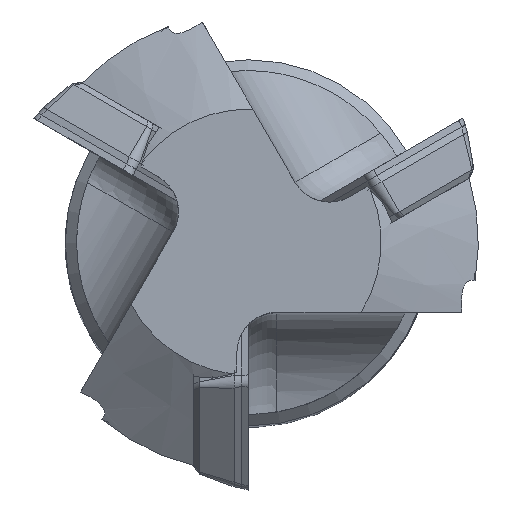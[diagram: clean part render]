
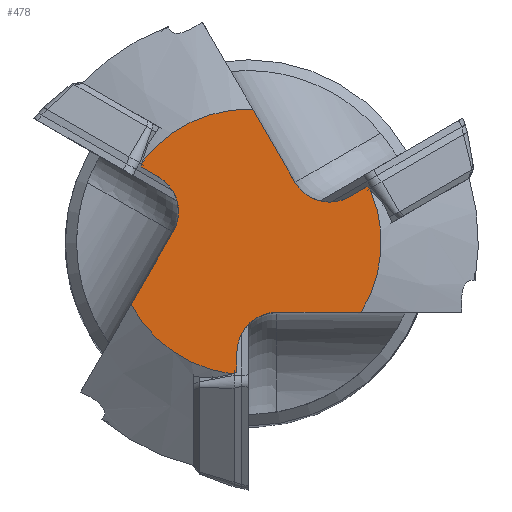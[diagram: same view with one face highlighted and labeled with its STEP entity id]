
A CAD part, top view. The second image highlights one B-rep face of the part: STEP entity #478.
In plain terms, the highlighted planar face has unit normal (0, 0, 1).
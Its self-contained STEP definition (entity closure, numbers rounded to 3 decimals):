
#252=FACE_OUTER_BOUND('',#813,.T.);
#478=ADVANCED_FACE('',(#252),#620,.F.);
#620=PLANE('',#2866);
#694=CIRCLE('',#2840,11.612);
#695=CIRCLE('',#2842,11.612);
#698=CIRCLE('',#2851,11.612);
#703=CIRCLE('',#2863,3.5);
#704=CIRCLE('',#2864,3.5);
#705=CIRCLE('',#2865,3.5);
#813=EDGE_LOOP('',(#1556,#1557,#1558,#1559,#1560,#1561,#1562,#1563,#1564,
#1565,#1566,#1567,#1568,#1569,#1570));
#988=LINE('',#3999,#1179);
#999=LINE('',#4201,#1190);
#1000=LINE('',#4202,#1191);
#1001=LINE('',#4204,#1192);
#1002=LINE('',#4208,#1193);
#1003=LINE('',#4209,#1194);
#1004=LINE('',#4211,#1195);
#1005=LINE('',#4214,#1196);
#1006=LINE('',#4216,#1197);
#1179=VECTOR('',#3109,1.);
#1190=VECTOR('',#3158,1.);
#1191=VECTOR('',#3159,1.);
#1192=VECTOR('',#3160,1.);
#1193=VECTOR('',#3163,1.);
#1194=VECTOR('',#3164,1.);
#1195=VECTOR('',#3165,1.);
#1196=VECTOR('',#3168,1.);
#1197=VECTOR('',#3169,1.);
#1556=ORIENTED_EDGE('',*,*,#2498,.T.);
#1557=ORIENTED_EDGE('',*,*,#2499,.T.);
#1558=ORIENTED_EDGE('',*,*,#2446,.F.);
#1559=ORIENTED_EDGE('',*,*,#2500,.T.);
#1560=ORIENTED_EDGE('',*,*,#2501,.T.);
#1561=ORIENTED_EDGE('',*,*,#2502,.T.);
#1562=ORIENTED_EDGE('',*,*,#2503,.T.);
#1563=ORIENTED_EDGE('',*,*,#2471,.F.);
#1564=ORIENTED_EDGE('',*,*,#2504,.T.);
#1565=ORIENTED_EDGE('',*,*,#2505,.T.);
#1566=ORIENTED_EDGE('',*,*,#2506,.T.);
#1567=ORIENTED_EDGE('',*,*,#2459,.T.);
#1568=ORIENTED_EDGE('',*,*,#2455,.F.);
#1569=ORIENTED_EDGE('',*,*,#2507,.T.);
#1570=ORIENTED_EDGE('',*,*,#2508,.T.);
#2174=VERTEX_POINT('',#3937);
#2175=VERTEX_POINT('',#3938);
#2181=VERTEX_POINT('',#3981);
#2182=VERTEX_POINT('',#3983);
#2184=VERTEX_POINT('',#4000);
#2195=VERTEX_POINT('',#4048);
#2196=VERTEX_POINT('',#4049);
#2218=VERTEX_POINT('',#4199);
#2219=VERTEX_POINT('',#4200);
#2220=VERTEX_POINT('',#4203);
#2221=VERTEX_POINT('',#4205);
#2222=VERTEX_POINT('',#4207);
#2223=VERTEX_POINT('',#4210);
#2224=VERTEX_POINT('',#4212);
#2225=VERTEX_POINT('',#4215);
#2446=EDGE_CURVE('',#2174,#2175,#694,.T.);
#2455=EDGE_CURVE('',#2181,#2182,#695,.T.);
#2459=EDGE_CURVE('',#2184,#2182,#988,.T.);
#2471=EDGE_CURVE('',#2195,#2196,#698,.T.);
#2498=EDGE_CURVE('',#2218,#2219,#703,.T.);
#2499=EDGE_CURVE('',#2219,#2175,#999,.T.);
#2500=EDGE_CURVE('',#2174,#2220,#1000,.T.);
#2501=EDGE_CURVE('',#2220,#2221,#1001,.T.);
#2502=EDGE_CURVE('',#2221,#2222,#704,.T.);
#2503=EDGE_CURVE('',#2222,#2196,#1002,.T.);
#2504=EDGE_CURVE('',#2195,#2223,#1003,.T.);
#2505=EDGE_CURVE('',#2223,#2224,#1004,.T.);
#2506=EDGE_CURVE('',#2224,#2184,#705,.T.);
#2507=EDGE_CURVE('',#2181,#2225,#1005,.T.);
#2508=EDGE_CURVE('',#2225,#2218,#1006,.T.);
#2840=AXIS2_PLACEMENT_3D('',#3936,#3099,#3100);
#2842=AXIS2_PLACEMENT_3D('',#3982,#3103,#3104);
#2851=AXIS2_PLACEMENT_3D('',#4047,#3124,#3125);
#2863=AXIS2_PLACEMENT_3D('',#4198,#3156,#3157);
#2864=AXIS2_PLACEMENT_3D('',#4206,#3161,#3162);
#2865=AXIS2_PLACEMENT_3D('',#4213,#3166,#3167);
#2866=AXIS2_PLACEMENT_3D('',#4217,#3170,#3171);
#3099=DIRECTION('',(0.,0.,-1.));
#3100=DIRECTION('',(1.,0.,0.));
#3103=DIRECTION('',(0.,0.,-1.));
#3104=DIRECTION('',(1.,0.,0.));
#3109=DIRECTION('',(1.,0.,0.));
#3124=DIRECTION('',(0.,0.,-1.));
#3125=DIRECTION('',(1.,0.,0.));
#3156=DIRECTION('',(0.,0.,-1.));
#3157=DIRECTION('',(1.,0.,0.));
#3158=DIRECTION('',(-0.5,0.866,0.));
#3159=DIRECTION('',(-0.183,-0.983,0.));
#3160=DIRECTION('',(0.866,-0.5,0.));
#3161=DIRECTION('',(0.,0.,-1.));
#3162=DIRECTION('',(1.,0.,0.));
#3163=DIRECTION('',(-0.5,-0.866,0.));
#3164=DIRECTION('',(0.943,0.333,0.));
#3165=DIRECTION('',(0.,1.,0.));
#3166=DIRECTION('',(0.,0.,-1.));
#3167=DIRECTION('',(1.,0.,0.));
#3168=DIRECTION('',(-0.76,0.65,0.));
#3169=DIRECTION('',(-0.866,-0.5,0.));
#3170=DIRECTION('',(0.,0.,-1.));
#3171=DIRECTION('',(1.,0.,0.));
#3936=CARTESIAN_POINT('',(0.,0.,-1.));
#3937=CARTESIAN_POINT('',(-9.28,6.98,-1.));
#3938=CARTESIAN_POINT('',(0.393,11.606,-1.));
#3981=CARTESIAN_POINT('',(10.685,4.546,-1.));
#3982=CARTESIAN_POINT('',(0.,0.,-1.));
#3983=CARTESIAN_POINT('',(9.854,-6.143,-1.));
#3999=CARTESIAN_POINT('',(0.,-6.143,-1.));
#4000=CARTESIAN_POINT('',(2.5,-6.143,-1.));
#4047=CARTESIAN_POINT('',(0.,0.,-1.));
#4048=CARTESIAN_POINT('',(-1.405,-11.527,-1.));
#4049=CARTESIAN_POINT('',(-10.247,-5.463,-1.));
#4198=CARTESIAN_POINT('',(7.101,6.986,-1.));
#4199=CARTESIAN_POINT('',(8.851,3.955,-1.));
#4200=CARTESIAN_POINT('',(4.07,5.236,-1.));
#4201=CARTESIAN_POINT('',(5.32,3.071,-1.));
#4202=CARTESIAN_POINT('',(-10.226,1.905,-1.));
#4203=CARTESIAN_POINT('',(-9.359,6.558,-1.));
#4204=CARTESIAN_POINT('',(0.5,0.866,-1.));
#4205=CARTESIAN_POINT('',(-7.851,5.687,-1.));
#4206=CARTESIAN_POINT('',(-9.601,2.656,-1.));
#4207=CARTESIAN_POINT('',(-6.57,0.906,-1.));
#4208=CARTESIAN_POINT('',(-5.32,3.071,-1.));
#4209=CARTESIAN_POINT('',(3.463,-9.808,-1.));
#4210=CARTESIAN_POINT('',(-1.,-11.384,-1.));
#4211=CARTESIAN_POINT('',(-1.,0.,-1.));
#4212=CARTESIAN_POINT('',(-1.,-9.643,-1.));
#4213=CARTESIAN_POINT('',(2.5,-9.643,-1.));
#4214=CARTESIAN_POINT('',(6.763,7.903,-1.));
#4215=CARTESIAN_POINT('',(10.359,4.826,-1.));
#4216=CARTESIAN_POINT('',(0.5,-0.866,-1.));
#4217=CARTESIAN_POINT('',(0.,0.,-1.));
